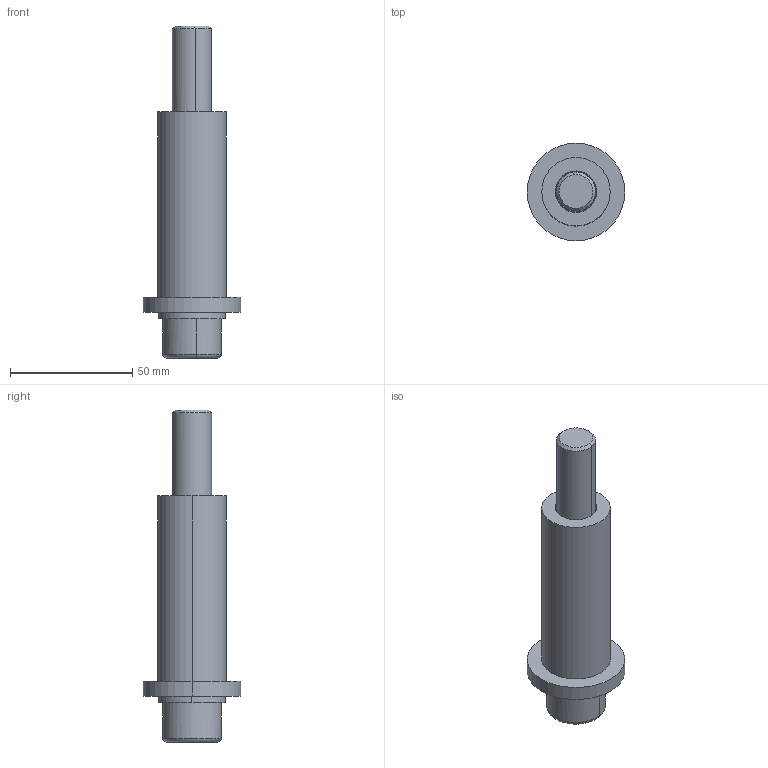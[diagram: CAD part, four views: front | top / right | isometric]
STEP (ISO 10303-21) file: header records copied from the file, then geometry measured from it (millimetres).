
FILE_DESCRIPTION(('CATIA V5 STEP Exchange'),'2;1');
FILE_NAME('C:\Users\Utente\Desktop\IO LAVORO\3D X SITO CF\X SITO\M312-03\M312-03-16.stp','2020-12-04T19:23:13+00:00',('none'),('none'),'CATIA Version 5 Release 20 GA (IN-10)','CATIA V5 STEP AP203','none');
FILE_SCHEMA(('CONFIG_CONTROL_DESIGN'));
Length unit declared in the file: millimetre
Products named in the file (1): M312-03-16
Bounding box: 40 x 40 x 136 mm (x, y, z)
Volume: 66561 mm3; surface area: 22444.5 mm2
Topology: 1 solids, 1 shells, 50 faces, 114 edges, 69 vertices
Faces by surface type: plane 22, cylinder 16, torus 8, cone 4
Entity records: 1593 total; most frequent: CARTESIAN_POINT 471, ORIENTED_EDGE 224, DIRECTION 196, EDGE_CURVE 112, AXIS2_PLACEMENT_3D 95, VERTEX_POINT 69, EDGE_LOOP 57, VECTOR 52
